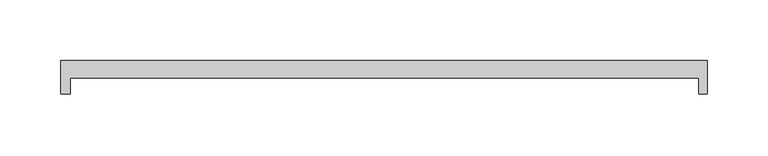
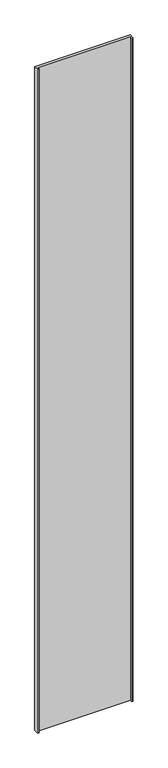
"""IFC4 building model written with IfcOpenShell, lengths in millimetres: plate geometry, Walls_Curtain-Walls_Danpal_AIRPT : Walls_Curtain-Walls_Danpal_AIRPT."""

from ifc_helpers import new_model, si_unit, origin, origin_with_axes, place, context, project, spatial, polyline, outline, extrude, source, transform, mapped, element, save


def plate_0ac376f9(model_context):
    return source(origin(), model_context, "Body", "SweptSolid", [
        extrude(outline(polyline([(-257.3806431, -14.1228126), (-257.3806431, -27.3924397), (-265.1, -27.3924397), (-265.1, 0.0), (265.0762525, 0.0), (265.0762525, -27.3924397), (258.0762525, -27.3924397), (258.0762525, -14.1228126), (-257.3806431, -14.1228126)])), origin_with_axes(), (0.0, 0.0, 1.0), 3887.6638156),
    ])


if __name__ == "__main__":
    model = new_model("IFC4")
    model_context = context("Model", 3, world=origin())
    ifc_project = project(units=[si_unit("LENGTHUNIT", "METRE", prefix="MILLI")], contexts=[model_context])
    site = spatial("IfcSite", under=ifc_project)
    building = spatial("IfcBuilding", under=site)
    placement = place(None, origin())
    plate_shape = plate_0ac376f9(model_context)
    element("IfcPlate", 1, ObjectType="Walls_Curtain-Walls_Danpal_AIRPT : Walls_Curtain-Walls_Danpal_AIRPT", at=placement, inside=building, context=model_context, shape_type="MappedRepresentation", body=[
        mapped(plate_shape, transform((0.0, 0.0, 0.0), x_axis=(1.0, 0.0, 0.0), y_axis=(0.0, 1.0, 0.0), z_axis=(0.0, 0.0, 1.0))),
    ])
    save(model, "model.ifc")
